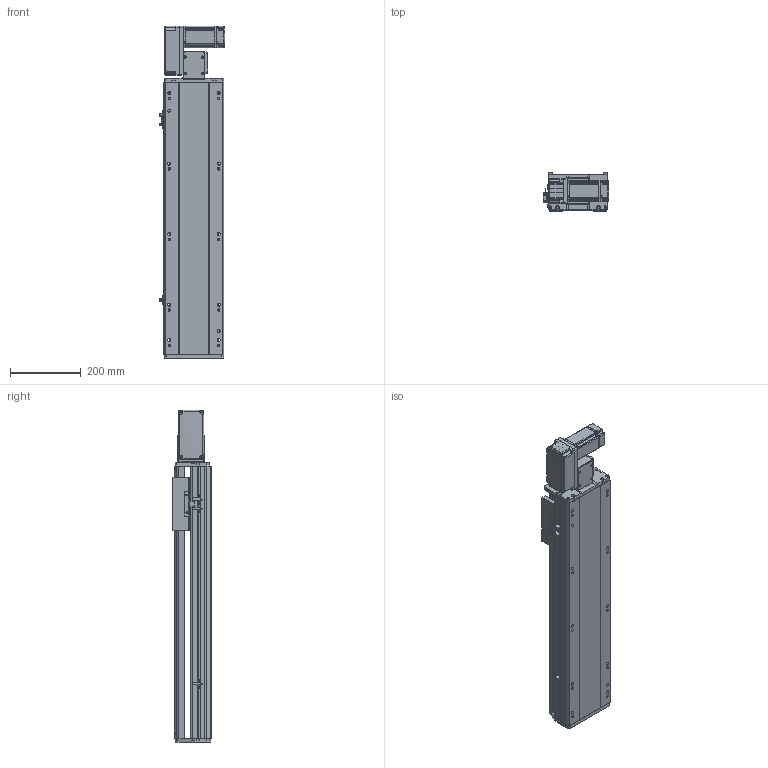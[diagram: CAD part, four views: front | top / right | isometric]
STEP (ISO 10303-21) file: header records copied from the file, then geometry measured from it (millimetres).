
FILE_DESCRIPTION (( 'STEP AP214' ), '1' );
FILE_NAME ('RTB17S-XX-500-L-M40-C4.STEP', '2025-12-11T03:51:30', ( '' ), ( '' ), 'SwSTEP 2.0', 'SolidWorks 2018', '' );
FILE_SCHEMA (( 'AUTOMOTIVE_DESIGN' ));
Length unit declared in the file: millimetre
Products named in the file (14): 400W侜督萇儂^RTB17S-XX-XX-L-M40-C4; RTB14-L-008-M20--萇儂啣^RTB17S-L-々湍釱蚾饜-400W_RTB17S-XX-XX-L-M40-C4; RTB17S-XX-500-L-M40-C4; RTB14-L-005P--轴承塑胶压盖^RTB17S-L-皮带座装配-400W_RTB17S-XX-XX-L-M40-C4; RTH13-BL-012覜茼え俋离^RTB17S-XX-XX-L-M40-C4; RTB17S-L-001耜醱啣^RTB17S-XX-XX-L-M40-C4; RTB17-R-011菁釱^RTB17S-XX-XX-L-M40-C4; RTB17S-L-004佪裝蹟譫蟀諉釱^RTB17S-XX-XX-L-M40-C4; OMRON EE-SX672 传感器^RTB17S-XX-XX-L-M40-C4; RTB14-L-018P^RTB17S-L-々湍釱蚾饜-400W_RTB17S-XX-XX-L-M40-C4; RTB17S-L-007奻裔^RTB17S-XX-XX-L-M40-C4; RTB14-L-017P^RTB17S-L-々湍釱蚾饜-400W_RTB17S-XX-XX-L-M40-C4; RTB17S-L-々湍釱蚾饜-400W^RTB17S-XX-XX-L-M40-C4; RMP17S-L-014-T20--々湍釱^RTB17S-L-々湍釱蚾饜-400W_RTB17S-XX-XX-L-M40-C4
Assembly tree (16 placements, depth 3):
  RTB17S-XX-500-L-M40-C4
    RTB17-R-011菁釱^RTB17S-XX-XX-L-M40-C4
    RTB17S-L-007奻裔^RTB17S-XX-XX-L-M40-C4
    OMRON EE-SX672 传感器^RTB17S-XX-XX-L-M40-C4  x3
    RTB17S-L-001耜醱啣^RTB17S-XX-XX-L-M40-C4
    400W侜督萇儂^RTB17S-XX-XX-L-M40-C4
    RTB17S-L-004佪裝蹟譫蟀諉釱^RTB17S-XX-XX-L-M40-C4
    RTH13-BL-012覜茼え俋离^RTB17S-XX-XX-L-M40-C4
    RTB17S-L-々湍釱蚾饜-400W^RTB17S-XX-XX-L-M40-C4
      RMP17S-L-014-T20--々湍釱^RTB17S-L-々湍釱蚾饜-400W_RTB17S-XX-XX-L-M40-C4
      RTB14-L-005P--轴承塑胶压盖^RTB17S-L-皮带座装配-400W_RTB17S-XX-XX-L-M40-C4
      RTB14-L-008-M20--萇儂啣^RTB17S-L-々湍釱蚾饜-400W_RTB17S-XX-XX-L-M40-C4
      RTB14-L-017P^RTB17S-L-々湍釱蚾饜-400W_RTB17S-XX-XX-L-M40-C4  x2
      RTB14-L-018P^RTB17S-L-々湍釱蚾饜-400W_RTB17S-XX-XX-L-M40-C4
Bounding box: 186 x 108 x 941 mm (x, y, z)
Volume: 8294293.3 mm3; surface area: 1054318.5 mm2
Topology: 15 solids, 15 shells, 2173 faces, 5979 edges, 3897 vertices
Faces by surface type: plane 1064, cylinder 661, bspline 301, cone 139, torus 8
Entity records: 61097 total; most frequent: CARTESIAN_POINT 16984, ORIENTED_EDGE 8802, DIRECTION 8216, EDGE_CURVE 4401, VERTEX_POINT 2885, AXIS2_PLACEMENT_3D 2815, LINE 2586, VECTOR 2586
